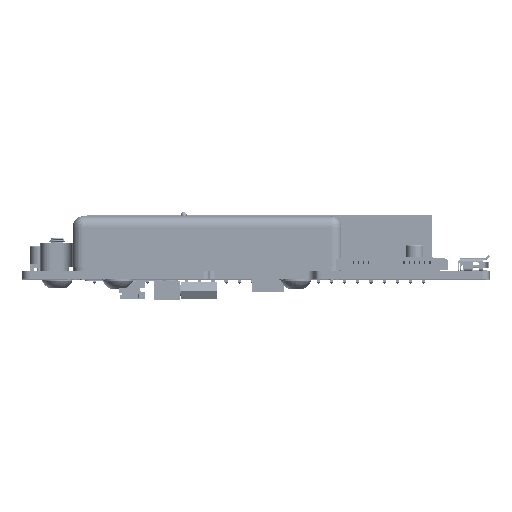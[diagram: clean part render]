
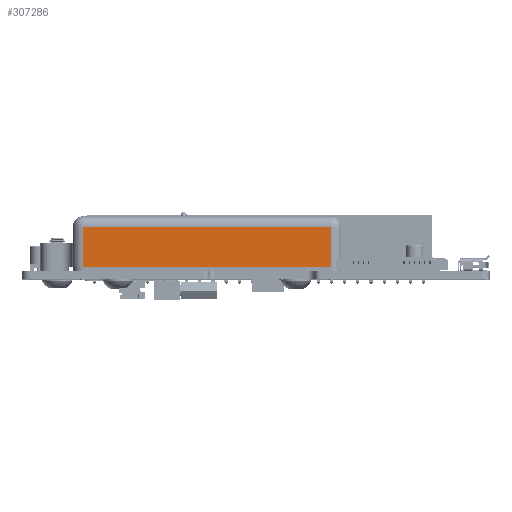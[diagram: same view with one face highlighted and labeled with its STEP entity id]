
A CAD part, top view. The second image highlights one B-rep face of the part: STEP entity #307286.
In plain terms, the highlighted planar face has unit normal (0, 0, 1).
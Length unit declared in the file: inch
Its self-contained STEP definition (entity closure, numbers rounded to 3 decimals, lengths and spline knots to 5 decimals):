
#11777 = EDGE_LOOP ( 'NONE', ( #200671, #122062, #226442, #78448 ) ) ;
#12277 = LINE ( 'NONE', #105780, #204786 ) ;
#30140 = DIRECTION ( 'NONE',  ( 0., -1., 0. ) ) ;
#30968 = CARTESIAN_POINT ( 'NONE',  ( 0.57123, 0.39748, 1.72313 ) ) ;
#35613 = EDGE_CURVE ( 'NONE', #290333, #302203, #308903, .T. ) ;
#41551 = VECTOR ( 'NONE', #281029, 39.37008 ) ;
#56195 = DIRECTION ( 'NONE',  ( 0., 1., 0. ) ) ;
#76646 = DIRECTION ( 'NONE',  ( 0., 0., 1. ) ) ;
#78448 = ORIENTED_EDGE ( 'NONE', *, *, #228257, .T. ) ;
#82700 = CARTESIAN_POINT ( 'NONE',  ( 0.57123, 0.064, 1.72313 ) ) ;
#98673 = VECTOR ( 'NONE', #159671, 39.37008 ) ;
#105780 = CARTESIAN_POINT ( 'NONE',  ( -1.31257, 0.39748, 1.72313 ) ) ;
#106966 = VERTEX_POINT ( 'NONE', #122902 ) ;
#107262 = CARTESIAN_POINT ( 'NONE',  ( -1.31257, 0.36938, 1.72313 ) ) ;
#122062 = ORIENTED_EDGE ( 'NONE', *, *, #323278, .T. ) ;
#122902 = CARTESIAN_POINT ( 'NONE',  ( 0.57123, 0.36938, 1.72313 ) ) ;
#155536 = CARTESIAN_POINT ( 'NONE',  ( 0.64933, 0.064, 1.72313 ) ) ;
#155949 = VERTEX_POINT ( 'NONE', #107262 ) ;
#159671 = DIRECTION ( 'NONE',  ( -1., 0., 0. ) ) ;
#169620 = CARTESIAN_POINT ( 'NONE',  ( -1.31257, 0.064, 1.72313 ) ) ;
#170911 = AXIS2_PLACEMENT_3D ( 'NONE', #227072, #76646, #252452 ) ;
#200671 = ORIENTED_EDGE ( 'NONE', *, *, #35613, .T. ) ;
#204786 = VECTOR ( 'NONE', #30140, 39.37008 ) ;
#218667 = EDGE_CURVE ( 'NONE', #106966, #155949, #299319, .T. ) ;
#219651 = VECTOR ( 'NONE', #56195, 39.37008 ) ;
#226442 = ORIENTED_EDGE ( 'NONE', *, *, #218667, .T. ) ;
#227072 = CARTESIAN_POINT ( 'NONE',  ( 0.64933, 0.39748, 1.72313 ) ) ;
#227473 = LINE ( 'NONE', #30968, #219651 ) ;
#228257 = EDGE_CURVE ( 'NONE', #155949, #290333, #12277, .T. ) ;
#245491 = FACE_OUTER_BOUND ( 'NONE', #11777, .T. ) ;
#252452 = DIRECTION ( 'NONE',  ( -1., 0., 0. ) ) ;
#259830 = CARTESIAN_POINT ( 'NONE',  ( -1.39067, 0.36938, 1.72313 ) ) ;
#276810 = PLANE ( 'NONE',  #170911 ) ;
#281029 = DIRECTION ( 'NONE',  ( 1., 0., 0. ) ) ;
#290333 = VERTEX_POINT ( 'NONE', #169620 ) ;
#299319 = LINE ( 'NONE', #259830, #98673 ) ;
#302203 = VERTEX_POINT ( 'NONE', #82700 ) ;
#307286 = ADVANCED_FACE ( 'NONE', ( #245491 ), #276810, .T. ) ;
#308903 = LINE ( 'NONE', #155536, #41551 ) ;
#323278 = EDGE_CURVE ( 'NONE', #302203, #106966, #227473, .T. ) ;
